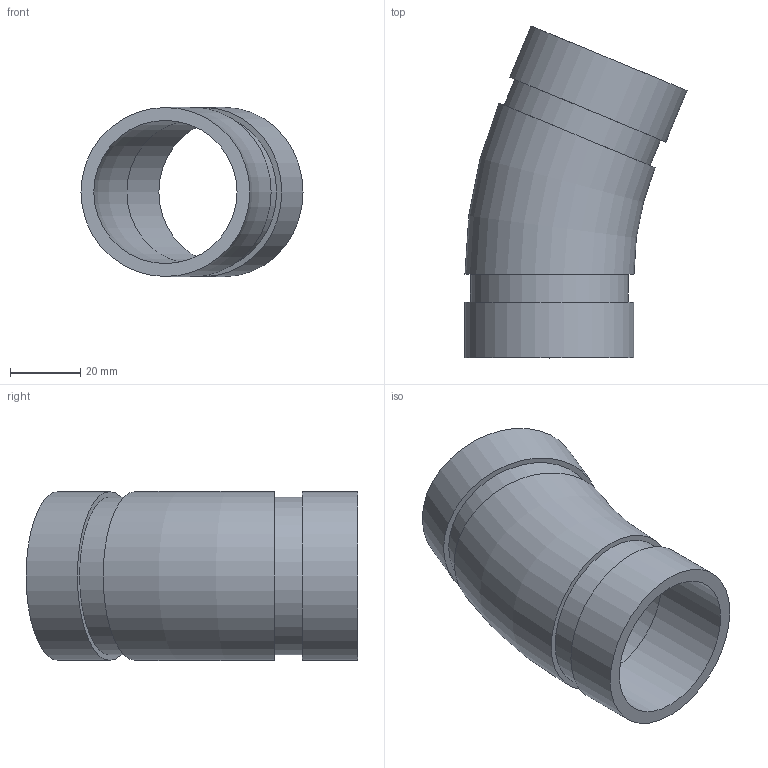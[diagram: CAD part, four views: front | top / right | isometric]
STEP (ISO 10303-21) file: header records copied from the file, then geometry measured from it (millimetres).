
FILE_DESCRIPTION(/* description */ ('VIC ELBOW 22 1/2 DEG No 12 (OGS)','CAx-IF Rec.Pracs.---Representation and Presentation of Product Manufacturing Information (PMI)---4.0---2014-10-13'),/* implementation_level */ '2;1');
FILE_NAME(/* name */ 'C:\Users\Vjadhav\Desktop\CAD for Inventor\1\12\STEP\Victaulic_IPS_Elbow 22.5 Deg_No 12 (OGS)\Victaulic_IPS_Elbow 22.5 Deg_No 12 (OGS)_1.5 (40).stp',/* time_stamp */ '2021-12-22T09:20:03+06:00',/* author */ ('CONSTRUCTION PIPING SERVICES'),/* organization */ ('Victaulic'),/* preprocessor_version */ 'ST-DEVELOPER v17.2',/* originating_system */ 'Autodesk Inventor 2019',/* authorisation */ '');
FILE_SCHEMA (('AP242_MANAGED_MODEL_BASED_3D_ENGINEERING_MIM_LF { 1 0 10303 442 1 1 4 }'));
Length unit declared in the file: inch
Products named in the file (1): 012-01.5
Bounding box: 63.43 x 94.75 x 48.26 mm (x, y, z)
Volume: 41877.4 mm3; surface area: 26554.8 mm2
Topology: 1 solids, 1 shells, 14 faces, 32 edges, 24 vertices
Faces by surface type: plane 6, cylinder 6, torus 2
Full cylindrical faces by diameter (mm): 40.894 x2, 45.085 x2, 48.26 x2
Entity records: 576 total; most frequent: DIRECTION 114, CARTESIAN_POINT 88, ORIENTED_EDGE 64, AXIS2_PLACEMENT_3D 54, EDGE_CURVE 32, CIRCLE 26, VERTEX_POINT 24, EDGE_LOOP 20
